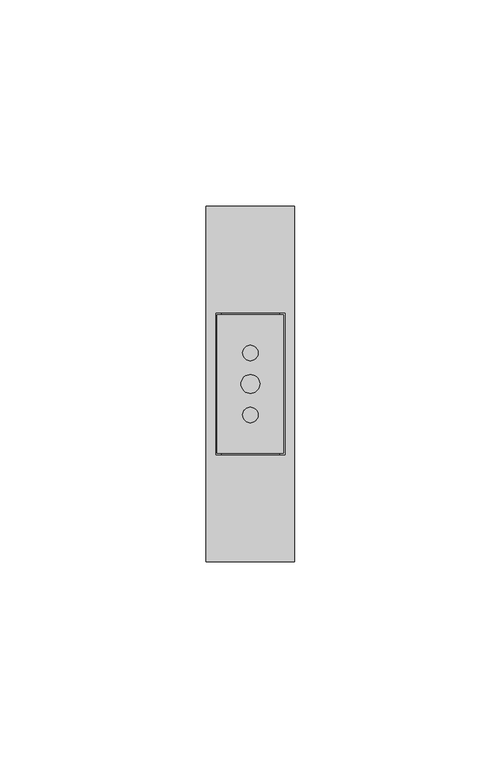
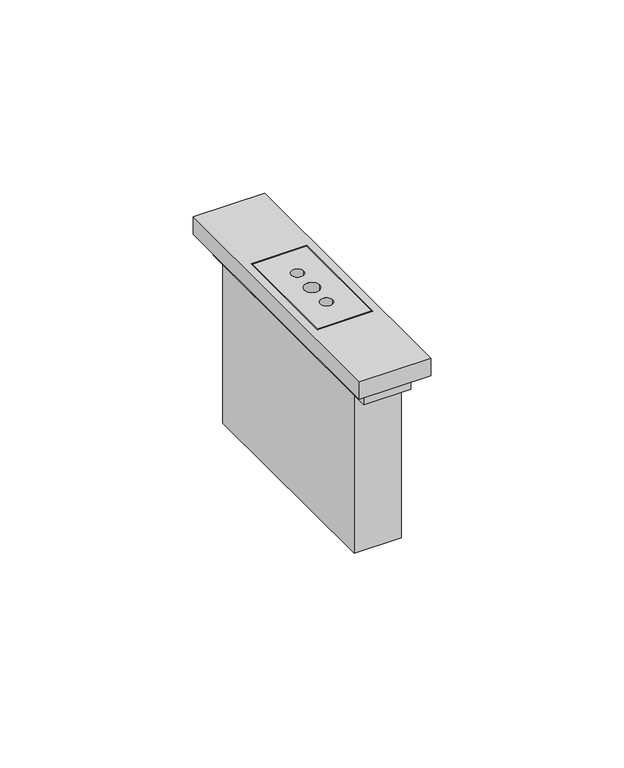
"""IFC4 building model written with IfcOpenShell, lengths in millimetres: proxy geometry, BT_LN-Presa10A : Presa 10A - Art. KM4113 - 1M - Cover Sabbia."""

from ifc_helpers import new_model, si_unit, point, frame, frame_2d, origin, origin_with_axes, origin_2d, place, context, project, spatial, polyline, circle_curve, trimmed, segment, composite_curve, outline, extrude, source, transform, mapped, element, save


def electrical_fixtures_8cdf7b6b(model_context):
    return source(origin(), model_context, "Body", "SweptSolid", [
        extrude(outline(polyline([(-7.0, 39.0), (7.0, 39.0), (7.0, -39.0), (-7.0, -39.0), (-7.0, 39.0)])), frame((0.0, 0.0, 50.0), z_axis=(0.0, 0.0, 1.0), x_axis=(1.0, 0.0, 0.0)), (0.0, 0.0, 1.0), 5.5),
        extrude(outline(polyline([(-7.0, 34.0), (7.0, 34.0), (7.0, -34.0), (-7.0, -34.0), (-7.0, 34.0)])), origin_with_axes(), (0.0, 0.0, 1.0), 50.0),
        extrude(outline(polyline([(-8.0433174, 16.8017303), (8.0433174, 16.8017303), (8.0433174, -16.8017303), (-8.0433174, -16.8017303), (-8.0433174, 16.8017303)]), holes=[composite_curve([segment(trimmed(circle_curve(origin_2d(), 2.274342), [point((-2.274342, 0.0))], [point((2.274342, 0.0))], True, "CARTESIAN"), True, "CONTINUOUS"), segment(trimmed(circle_curve(origin_2d(), 2.274342), [point((2.274342, 0.0))], [point((-2.274342, 0.0))], True, "CARTESIAN"), True, "CONTINUOUS")], self_intersect=False), composite_curve([segment(trimmed(circle_curve(frame_2d((0.0, 7.5063209)), 1.8461232), [point((-1.8461232, 7.5063209))], [point((1.8461232, 7.5063209))], True, "CARTESIAN"), True, "CONTINUOUS"), segment(trimmed(circle_curve(frame_2d((0.0, 7.5063209)), 1.8461232), [point((1.8461232, 7.5063209))], [point((-1.8461232, 7.5063209))], True, "CARTESIAN"), True, "CONTINUOUS")], self_intersect=False), composite_curve([segment(trimmed(circle_curve(frame_2d((0.0, -7.5063209)), 1.8461232), [point((-1.8461232, -7.5063209))], [point((1.8461232, -7.5063209))], True, "CARTESIAN"), True, "CONTINUOUS"), segment(trimmed(circle_curve(frame_2d((0.0, -7.5063209)), 1.8461232), [point((1.8461232, -7.5063209))], [point((-1.8461232, -7.5063209))], True, "CARTESIAN"), True, "CONTINUOUS")], self_intersect=False)]), frame((0.0, 0.0, 55.5), z_axis=(0.0, 0.0, 1.0), x_axis=(1.0, 0.0, 0.0)), (0.0, 0.0, 1.0), 5.5),
        extrude(outline(polyline([(-10.7, -43.0), (-10.7, 43.0), (10.7, 43.0), (10.7, -43.0), (-10.7, -43.0)]), holes=[polyline([(-8.3433174, -17.1017303), (8.3433174, -17.1017303), (8.3433174, 17.1017303), (-8.3433174, 17.1017303), (-8.3433174, -17.1017303)])]), frame((0.0, 0.0, 55.5), z_axis=(0.0, 0.0, 1.0), x_axis=(1.0, 0.0, 0.0)), (0.0, 0.0, 1.0), 5.5),
    ])


if __name__ == "__main__":
    model = new_model("IFC4")
    model_context = context("Model", 3, world=origin())
    ifc_project = project(units=[si_unit("LENGTHUNIT", "METRE", prefix="MILLI")], contexts=[model_context])
    site = spatial("IfcSite", under=ifc_project)
    building = spatial("IfcBuilding", under=site)
    placement = place(None, origin())
    electrical_fixtures_shape = electrical_fixtures_8cdf7b6b(model_context)
    element("IfcBuildingElementProxy", 1, Name="BT_LN-Presa10A : Presa 10A - Art. KM4113 - 1M - Cover Sabbia", ObjectType="BT_LN-Presa10A : Presa 10A - Art. KM4113 - 1M - Cover Sabbia", at=placement, inside=building, context=model_context, shape_type="MappedRepresentation", body=[
        mapped(electrical_fixtures_shape, transform((0.0, 0.0, 0.0), x_axis=(1.0, 0.0, 0.0), y_axis=(0.0, 1.0, 0.0), z_axis=(0.0, 0.0, 1.0))),
    ])
    save(model, "model.ifc")
